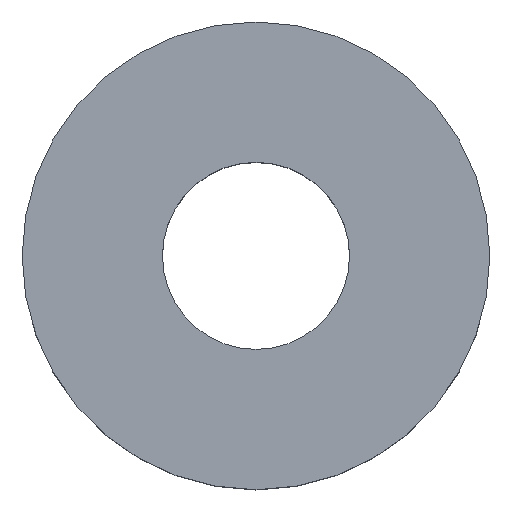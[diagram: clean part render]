
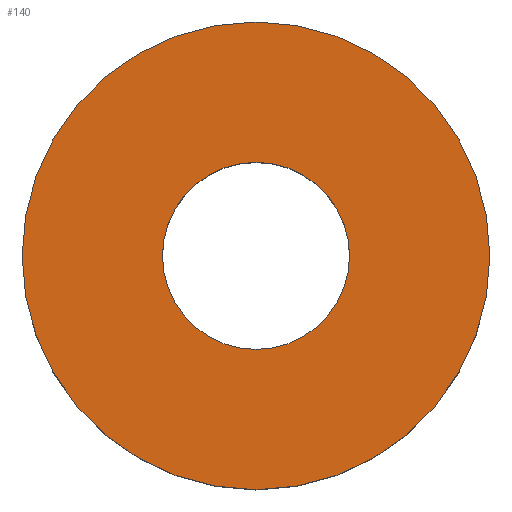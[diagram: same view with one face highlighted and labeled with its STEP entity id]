
A CAD part, top view. The second image highlights one B-rep face of the part: STEP entity #140.
In plain terms, the highlighted planar face has unit normal (0, 0, 1).
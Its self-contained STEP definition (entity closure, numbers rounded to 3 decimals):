
#24 = VERTEX_POINT('',#25);
#25 = CARTESIAN_POINT('',(7.5,0.,5.));
#32 = CYLINDRICAL_SURFACE('',#33,7.5);
#33 = AXIS2_PLACEMENT_3D('',#34,#35,#36);
#34 = CARTESIAN_POINT('',(0.,0.,0.));
#35 = DIRECTION('',(-0.,-0.,-1.));
#36 = DIRECTION('',(1.,0.,0.));
#51 = EDGE_CURVE('',#24,#24,#52,.T.);
#52 = SURFACE_CURVE('',#53,(#58,#65),.PCURVE_S1.);
#53 = CIRCLE('',#54,7.5);
#54 = AXIS2_PLACEMENT_3D('',#55,#56,#57);
#55 = CARTESIAN_POINT('',(0.,0.,5.));
#56 = DIRECTION('',(0.,0.,1.));
#57 = DIRECTION('',(1.,0.,0.));
#58 = PCURVE('',#32,#59);
#59 = DEFINITIONAL_REPRESENTATION('',(#60),#64);
#60 = LINE('',#61,#62);
#61 = CARTESIAN_POINT('',(-0.,-5.));
#62 = VECTOR('',#63,1.);
#63 = DIRECTION('',(-1.,0.));
#64 = ( GEOMETRIC_REPRESENTATION_CONTEXT(2) 
PARAMETRIC_REPRESENTATION_CONTEXT() REPRESENTATION_CONTEXT('2D SPACE',''
  ) );
#65 = PCURVE('',#66,#71);
#66 = PLANE('',#67);
#67 = AXIS2_PLACEMENT_3D('',#68,#69,#70);
#68 = CARTESIAN_POINT('',(0.,0.,5.));
#69 = DIRECTION('',(0.,0.,1.));
#70 = DIRECTION('',(1.,0.,-0.));
#71 = DEFINITIONAL_REPRESENTATION('',(#72),#76);
#72 = CIRCLE('',#73,7.5);
#73 = AXIS2_PLACEMENT_2D('',#74,#75);
#74 = CARTESIAN_POINT('',(0.,0.));
#75 = DIRECTION('',(1.,0.));
#76 = ( GEOMETRIC_REPRESENTATION_CONTEXT(2) 
PARAMETRIC_REPRESENTATION_CONTEXT() REPRESENTATION_CONTEXT('2D SPACE',''
  ) );
#129 = CYLINDRICAL_SURFACE('',#130,3.);
#130 = AXIS2_PLACEMENT_3D('',#131,#132,#133);
#131 = CARTESIAN_POINT('',(0.,0.,0.));
#132 = DIRECTION('',(-0.,-0.,-1.));
#133 = DIRECTION('',(1.,0.,0.));
#140 = ADVANCED_FACE('',(#141,#144),#66,.T.);
#141 = FACE_BOUND('',#142,.T.);
#142 = EDGE_LOOP('',(#143));
#143 = ORIENTED_EDGE('',*,*,#51,.T.);
#144 = FACE_BOUND('',#145,.T.);
#145 = EDGE_LOOP('',(#146));
#146 = ORIENTED_EDGE('',*,*,#147,.T.);
#147 = EDGE_CURVE('',#148,#148,#150,.T.);
#148 = VERTEX_POINT('',#149);
#149 = CARTESIAN_POINT('',(3.,0.,5.));
#150 = SURFACE_CURVE('',#151,(#156,#167),.PCURVE_S1.);
#151 = CIRCLE('',#152,3.);
#152 = AXIS2_PLACEMENT_3D('',#153,#154,#155);
#153 = CARTESIAN_POINT('',(0.,0.,5.));
#154 = DIRECTION('',(0.,0.,-1.));
#155 = DIRECTION('',(1.,0.,0.));
#156 = PCURVE('',#66,#157);
#157 = DEFINITIONAL_REPRESENTATION('',(#158),#166);
#158 = ( BOUNDED_CURVE() B_SPLINE_CURVE(2,(#159,#160,#161,#162,#163,#164
,#165),.UNSPECIFIED.,.T.,.F.) B_SPLINE_CURVE_WITH_KNOTS((1,2,2,2,2,1),(
    -2.094,0.,2.094,4.189,6.283,
8.378),.UNSPECIFIED.) CURVE() GEOMETRIC_REPRESENTATION_ITEM() 
RATIONAL_B_SPLINE_CURVE((1.,0.5,1.,0.5,1.,0.5,1.)) REPRESENTATION_ITEM(
  '') );
#159 = CARTESIAN_POINT('',(3.,0.));
#160 = CARTESIAN_POINT('',(3.,-5.196));
#161 = CARTESIAN_POINT('',(-1.5,-2.598));
#162 = CARTESIAN_POINT('',(-6.,0.));
#163 = CARTESIAN_POINT('',(-1.5,2.598));
#164 = CARTESIAN_POINT('',(3.,5.196));
#165 = CARTESIAN_POINT('',(3.,0.));
#166 = ( GEOMETRIC_REPRESENTATION_CONTEXT(2) 
PARAMETRIC_REPRESENTATION_CONTEXT() REPRESENTATION_CONTEXT('2D SPACE',''
  ) );
#167 = PCURVE('',#129,#168);
#168 = DEFINITIONAL_REPRESENTATION('',(#169),#173);
#169 = LINE('',#170,#171);
#170 = CARTESIAN_POINT('',(-6.283,-5.));
#171 = VECTOR('',#172,1.);
#172 = DIRECTION('',(1.,-0.));
#173 = ( GEOMETRIC_REPRESENTATION_CONTEXT(2) 
PARAMETRIC_REPRESENTATION_CONTEXT() REPRESENTATION_CONTEXT('2D SPACE',''
  ) );
